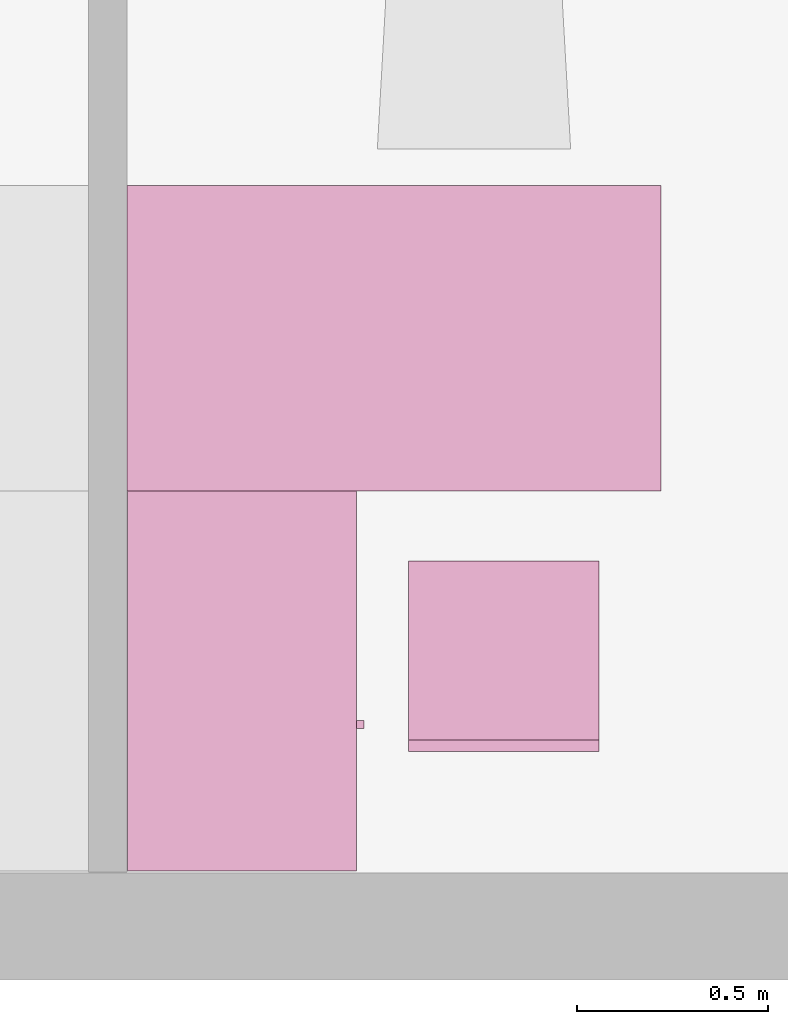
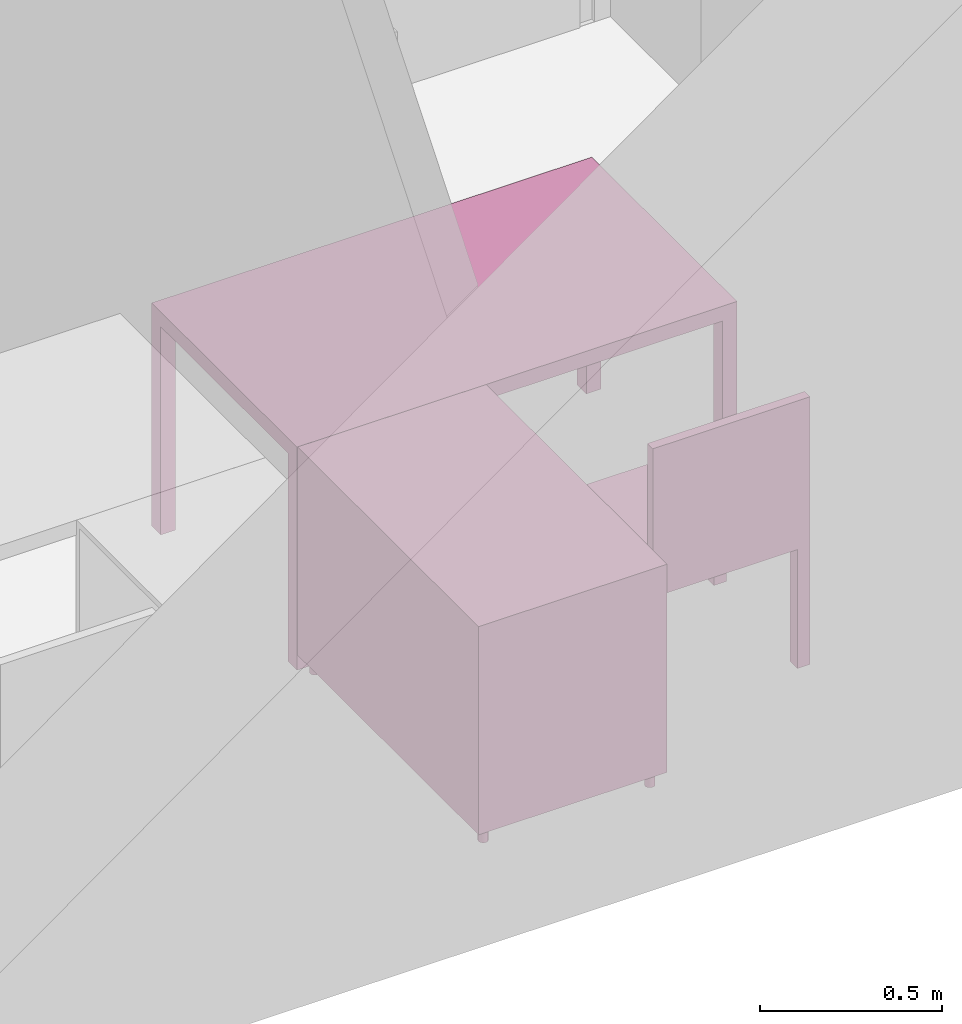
"""IFC4 building model written with IfcOpenShell, lengths in metres."""

from ifc_helpers import new_model, entity, si_unit, converted_unit, derived_unit, frame, origin, place, context, subcontext, project, spatial, faceted_brep, element, save


model = new_model("IFC4")

# Units and contexts
model_context = context("Model", 3, precision=1e-05, world=origin())
body_context = subcontext(model_context, "Body", "Model", "MODEL_VIEW")
ifc_project = project(units=[si_unit("LENGTHUNIT", "METRE"), si_unit("AREAUNIT", "SQUARE_METRE"), si_unit("VOLUMEUNIT", "CUBIC_METRE"), si_unit("MASSUNIT", "GRAM", prefix="KILO"), converted_unit("PLANEANGLEUNIT", "DEGREE", entity("IfcPlaneAngleMeasure", 0.0174532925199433), si_unit("PLANEANGLEUNIT", "RADIAN"), dimensions=[0, 0, 0, 0, 0, 0, 0]), derived_unit("THERMALTRANSMITTANCEUNIT", [(si_unit("POWERUNIT", "WATT"), 1), (si_unit("THERMODYNAMICTEMPERATUREUNIT", "KELVIN"), -1), (si_unit("LENGTHUNIT", "METRE"), -2)]), derived_unit("VOLUMETRICFLOWRATEUNIT", [(si_unit("LENGTHUNIT", "METRE"), 3), (converted_unit("TIMEUNIT", "hour", entity("IfcTimeMeasure", 3600.0), si_unit("TIMEUNIT", "SECOND"), dimensions=[0, 0, 1, 0, 0, 0, 0]), -1), (si_unit("LENGTHUNIT", "METRE"), -1)])], contexts=[model_context])

# Building, storeys
building_placement = place(None, origin())
building = spatial("IfcBuilding", under=ifc_project, at=building_placement, Name="HABITATGE PLURIFAMILIAR", CompositionType="ELEMENT")
storey_1_placement = place(building_placement, frame((0.0, 0.0, 6.25)))
storey_1 = spatial("IfcBuildingStorey", under=building, at=storey_1_placement, Name="PLANTA PRIMERA", CompositionType="ELEMENT", Elevation=6.25)
storey_2_placement = place(storey_1_placement, frame((0.0, 0.0, 3.35)))
storey_2 = spatial("IfcBuildingStorey", under=storey_1, at=storey_2_placement, Name="NOU", CompositionType="PARTIAL")

# Furniture
furniture_1_placement = place(storey_2_placement, frame((403.46963549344, 14.1227210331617, -3.35)))
element("IfcFurniture", 1, at=furniture_1_placement, inside=storey_2, Name="Taula 140X80_P1", context=body_context, shape_type="Brep", body=[
    faceted_brep([(1.40000000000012, 0.05, 0.0), (1.35357142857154, 0.05, 0.0), (1.35357142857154, 0.0, 0.0), (1.40000000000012, 0.0, 0.0), (1.40000000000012, 0.0, 0.7), (1.35357142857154, 0.0, 0.7), (1.35357142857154, 0.05, 0.7), (1.40000000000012, 0.05, 0.7)], [[[0, 1, 2, 3]], [[4, 5, 6, 7]], [[3, 4, 7, 0]], [[2, 5, 4, 3]], [[1, 6, 5, 2]], [[0, 7, 6, 1]]], orient=[[False], [False], [False], [False], [False], [False]]),
    faceted_brep([(1.40000000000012, 0.800069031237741, 0.0), (1.35357142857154, 0.800069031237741, 0.0), (1.35357142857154, 0.750069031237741, 0.0), (1.40000000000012, 0.750069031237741, 0.0), (1.40000000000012, 0.750069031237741, 0.7), (1.35357142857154, 0.750069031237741, 0.7), (1.35357142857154, 0.800069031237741, 0.7), (1.40000000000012, 0.800069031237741, 0.7)], [[[0, 1, 2, 3]], [[4, 5, 6, 7]], [[3, 4, 7, 0]], [[2, 5, 4, 3]], [[1, 6, 5, 2]], [[0, 7, 6, 1]]], orient=[[False], [False], [False], [False], [False], [False]]),
    faceted_brep([(1.40000000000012, 0.800069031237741, 0.7), (0.0, 0.800069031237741, 0.7), (0.0, 0.0, 0.7), (1.40000000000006, 0.0, 0.7), (1.40000000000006, 0.0, 0.75), (0.0, 0.0, 0.75), (0.0, 0.800069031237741, 0.75), (1.40000000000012, 0.800069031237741, 0.75)], [[[0, 1, 2, 3]], [[4, 5, 6, 7]], [[3, 4, 7, 0]], [[2, 5, 4, 3]], [[1, 6, 5, 2]], [[0, 7, 6, 1]]], orient=[[False], [False], [False], [False], [False], [False]]),
    faceted_brep([(0.046428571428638, 0.05, 0.0), (0.0, 0.05, 0.0), (0.0, 0.0, 0.0), (0.046428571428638, 0.0, 0.0), (0.046428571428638, 0.0, 0.7), (0.0, 0.0, 0.7), (0.0, 0.05, 0.7), (0.046428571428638, 0.05, 0.7)], [[[0, 1, 2, 3]], [[4, 5, 6, 7]], [[3, 4, 7, 0]], [[2, 5, 4, 3]], [[1, 6, 5, 2]], [[0, 7, 6, 1]]], orient=[[False], [False], [False], [False], [False], [False]]),
    faceted_brep([(0.046428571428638, 0.800069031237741, 0.0), (0.0, 0.800069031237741, 0.0), (0.0, 0.750069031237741, 0.0), (0.046428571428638, 0.750069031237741, 0.0), (0.046428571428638, 0.750069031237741, 0.7), (0.0, 0.750069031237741, 0.7), (0.0, 0.800069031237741, 0.7), (0.046428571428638, 0.800069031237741, 0.7)], [[[0, 1, 2, 3]], [[4, 5, 6, 7]], [[3, 4, 7, 0]], [[2, 5, 4, 3]], [[1, 6, 5, 2]], [[0, 7, 6, 1]]], orient=[[False], [False], [False], [False], [False], [False]]),
])
furniture_2_placement = place(storey_2_placement, frame((403.471767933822, 13.1257751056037, -3.35)))
element("IfcFurniture", 2, at=furniture_2_placement, inside=storey_2, Name="Taula 100X60_P1", context=body_context, shape_type="Brep", body=[
    faceted_brep([(0.0, 1.00000000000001, 0.05), (0.6, 1.00000000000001, 0.05), (0.6, 1.00000000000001, 0.07), (0.0, 1.00000000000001, 0.07), (0.6, 0.0, 0.05), (0.6, 0.0, 0.07), (0.0, 0.0, 0.05), (0.0, 0.0, 0.07)], [[[0, 1, 2, 3]], [[1, 4, 5, 2]], [[4, 6, 7, 5]], [[6, 0, 3, 7]], [[0, 6, 4, 1]], [[3, 2, 5, 7]]], orient=[[False], [False], [False], [False], [False], [False]]),
    faceted_brep([(0.58, 1.00000000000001, 0.35), (0.0, 1.00000000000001, 0.35), (0.0, 0.0, 0.35), (0.58, 0.0, 0.35), (0.0, 1.00000000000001, 0.37), (0.58, 1.00000000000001, 0.37), (0.58, 0.0, 0.37), (0.0, 0.0, 0.37)], [[[0, 1, 2, 3]], [[4, 5, 6, 7]], [[1, 0, 5, 4]], [[2, 1, 4, 7]], [[3, 2, 7, 6]], [[0, 3, 6, 5]]], orient=[[False], [False], [False], [False], [False], [False]]),
    faceted_brep([(0.58, 0.490000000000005, 0.75), (0.58, 0.490000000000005, 0.05), (0.6, 0.490000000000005, 0.05), (0.6, 0.490000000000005, 0.75), (0.58, 0.0, 0.05), (0.6, 0.0, 0.05), (0.58, 0.0, 0.75), (0.6, 0.0, 0.75)], [[[0, 1, 2, 3]], [[1, 4, 5, 2]], [[4, 6, 7, 5]], [[6, 0, 3, 7]], [[0, 6, 4, 1]], [[3, 2, 5, 7]]], orient=[[False], [False], [False], [False], [False], [False]]),
    faceted_brep([(0.0, 0.980000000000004, 0.75), (0.0, 0.980000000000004, 0.0499999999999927), (0.0, 1.0, 0.0499999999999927), (0.0, 1.0, 0.75), (0.6, 0.980000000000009, 0.05), (0.6, 1.00000000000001, 0.05), (0.6, 0.980000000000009, 0.75), (0.6, 1.00000000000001, 0.75)], [[[0, 1, 2, 3]], [[1, 4, 5, 2]], [[4, 6, 7, 5]], [[6, 0, 3, 7]], [[0, 6, 4, 1]], [[3, 2, 5, 7]]], orient=[[False], [False], [False], [False], [False], [False]]),
    faceted_brep([(0.0, 0.470000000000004, 0.75), (0.0, 0.470000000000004, 0.0499999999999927), (0.0, 0.490000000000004, 0.0499999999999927), (0.0, 0.490000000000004, 0.75), (0.6, 0.470000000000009, 0.05), (0.6, 0.490000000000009, 0.05), (0.6, 0.470000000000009, 0.75), (0.6, 0.490000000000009, 0.75)], [[[0, 1, 2, 3]], [[1, 4, 5, 2]], [[4, 6, 7, 5]], [[6, 0, 3, 7]], [[0, 6, 4, 1]], [[3, 2, 5, 7]]], orient=[[False], [False], [False], [False], [False], [False]]),
    faceted_brep([(0.0, 0.47, 0.75000000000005), (0.0, 0.47, 0.0499999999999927), (0.0, 0.490000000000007, 0.0499999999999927), (0.0, 0.490000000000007, 0.75000000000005), (0.579999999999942, 0.469999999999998, 0.0499999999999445), (0.579999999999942, 0.490000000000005, 0.0499999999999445), (0.58, 0.469999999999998, 0.750000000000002), (0.58, 0.490000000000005, 0.750000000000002)], [[[0, 1, 2, 3]], [[1, 4, 5, 2]], [[4, 6, 7, 5]], [[6, 0, 3, 7]], [[0, 6, 4, 1]], [[3, 2, 5, 7]]], orient=[[False], [False], [False], [False], [False], [False]]),
    faceted_brep([(0.0, 0.0, 0.75), (0.0, 0.0, 0.0499999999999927), (0.0, 0.0200000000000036, 0.0499999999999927), (0.0, 0.0200000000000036, 0.75), (0.6, 0.0, 0.05), (0.6, 0.0200000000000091, 0.05), (0.6, 0.0, 0.75), (0.6, 0.0200000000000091, 0.75)], [[[0, 1, 2, 3]], [[1, 4, 5, 2]], [[4, 6, 7, 5]], [[6, 0, 3, 7]], [[0, 6, 4, 1]], [[3, 2, 5, 7]]], orient=[[False], [False], [False], [False], [False], [False]]),
    faceted_brep([(0.0, 1.00000000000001, 0.73), (0.6, 1.00000000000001, 0.73), (0.6, 1.00000000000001, 0.75), (0.0, 1.00000000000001, 0.75), (0.6, 0.0, 0.73), (0.6, 0.0, 0.75), (0.0, 0.0, 0.73), (0.0, 0.0, 0.75)], [[[0, 1, 2, 3]], [[1, 4, 5, 2]], [[4, 6, 7, 5]], [[6, 0, 3, 7]], [[0, 6, 4, 1]], [[3, 2, 5, 7]]], orient=[[False], [False], [False], [False], [False], [False]]),
    faceted_brep([(0.0, 0.980000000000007, 0.75), (0.0, 0.980000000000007, 0.05), (0.02, 0.980000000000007, 0.05), (0.02, 0.980000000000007, 0.75), (0.0, 0.0, 0.05), (0.02, 0.0, 0.05), (0.0, 0.0, 0.75), (0.02, 0.0, 0.75)], [[[0, 1, 2, 3]], [[1, 4, 5, 2]], [[4, 6, 7, 5]], [[6, 0, 3, 7]], [[0, 6, 4, 1]], [[3, 2, 5, 7]]], orient=[[False], [False], [False], [False], [False], [False]]),
    faceted_brep([(0.6, 0.374420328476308, 0.35), (0.62, 0.374420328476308, 0.35), (0.62, 0.394420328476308, 0.35), (0.6, 0.394420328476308, 0.35), (0.6, 0.394420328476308, 0.45), (0.62, 0.394420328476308, 0.45), (0.62, 0.374420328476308, 0.45), (0.6, 0.374420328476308, 0.45)], [[[0, 1, 2, 3]], [[4, 5, 6, 7]], [[3, 4, 7, 0]], [[2, 5, 4, 3]], [[1, 6, 5, 2]], [[0, 7, 6, 1]]], orient=[[False], [False], [False], [False], [False], [False]]),
    faceted_brep([(0.0361788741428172, 0.950063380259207, 0.0), (0.038772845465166, 0.950290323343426, 0.0), (0.0412880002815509, 0.950964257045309, 0.0), (0.0436479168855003, 0.95206470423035, 0.0), (0.0457808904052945, 0.953558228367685, 0.0), (0.0476221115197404, 0.955399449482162, 0.0), (0.0491156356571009, 0.957532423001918, 0.0), (0.0502160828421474, 0.959892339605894, 0.0), (0.0508900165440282, 0.962407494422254, 0.0), (0.0511169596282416, 0.96500146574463, 0.0), (0.0508900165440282, 0.967595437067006, 0.0), (0.0502160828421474, 0.970110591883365, 0.0), (0.0491156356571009, 0.972470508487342, 0.0), (0.0476221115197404, 0.974603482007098, 0.0), (0.0457808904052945, 0.976444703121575, 0.0), (0.0436479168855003, 0.97793822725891, 0.0), (0.0412880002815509, 0.979038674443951, 0.0), (0.038772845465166, 0.979712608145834, 0.0), (0.0361788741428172, 0.979939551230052, 0.0), (0.0335849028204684, 0.979712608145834, 0.0), (0.0310697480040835, 0.979038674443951, 0.0), (0.0287098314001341, 0.97793822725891, 0.0), (0.02657685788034, 0.976444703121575, 0.0), (0.024735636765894, 0.974603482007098, 0.0), (0.0232421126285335, 0.972470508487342, 0.0), (0.022141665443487, 0.970110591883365, 0.0), (0.0214677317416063, 0.967595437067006, 0.0), (0.0212407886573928, 0.96500146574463, 0.0), (0.0214677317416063, 0.962407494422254, 0.0), (0.022141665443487, 0.959892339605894, 0.0), (0.0232421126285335, 0.957532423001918, 0.0), (0.024735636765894, 0.955399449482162, 0.0), (0.02657685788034, 0.953558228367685, 0.0), (0.0287098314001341, 0.95206470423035, 0.0), (0.0310697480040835, 0.950964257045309, 0.0), (0.0335849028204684, 0.950290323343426, 0.0), (0.0361788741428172, 0.950063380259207, 0.05), (0.0335849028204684, 0.950290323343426, 0.05), (0.0310697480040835, 0.950964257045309, 0.05), (0.0287098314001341, 0.95206470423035, 0.05), (0.02657685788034, 0.953558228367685, 0.05), (0.024735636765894, 0.955399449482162, 0.05), (0.0232421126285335, 0.957532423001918, 0.05), (0.022141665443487, 0.959892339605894, 0.05), (0.0214677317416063, 0.962407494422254, 0.05), (0.0212407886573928, 0.96500146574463, 0.05), (0.0214677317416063, 0.967595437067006, 0.05), (0.022141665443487, 0.970110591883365, 0.05), (0.0232421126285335, 0.972470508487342, 0.05), (0.024735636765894, 0.974603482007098, 0.05), (0.02657685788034, 0.976444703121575, 0.05), (0.0287098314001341, 0.97793822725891, 0.05), (0.0310697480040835, 0.979038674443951, 0.05), (0.0335849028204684, 0.979712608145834, 0.05), (0.0361788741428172, 0.979939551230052, 0.05), (0.038772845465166, 0.979712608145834, 0.05), (0.0412880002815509, 0.979038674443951, 0.05), (0.0436479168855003, 0.97793822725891, 0.05), (0.0457808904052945, 0.976444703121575, 0.05), (0.0476221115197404, 0.974603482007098, 0.05), (0.0491156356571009, 0.972470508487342, 0.05), (0.0502160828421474, 0.970110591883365, 0.05), (0.0508900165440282, 0.967595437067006, 0.05), (0.0511169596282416, 0.96500146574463, 0.05), (0.0508900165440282, 0.962407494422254, 0.05), (0.0502160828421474, 0.959892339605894, 0.05), (0.0491156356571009, 0.957532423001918, 0.05), (0.0476221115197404, 0.955399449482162, 0.05), (0.0457808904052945, 0.953558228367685, 0.05), (0.0436479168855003, 0.95206470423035, 0.05), (0.0412880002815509, 0.950964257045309, 0.05), (0.038772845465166, 0.950290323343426, 0.05)], [[[0, 1, 2, 3, 4, 5, 6, 7, 8, 9, 10, 11, 12, 13, 14, 15, 16, 17, 18, 19, 20, 21, 22, 23, 24, 25, 26, 27, 28, 29, 30, 31, 32, 33, 34, 35]], [[36, 37, 38, 39, 40, 41, 42, 43, 44, 45, 46, 47, 48, 49, 50, 51, 52, 53, 54, 55, 56, 57, 58, 59, 60, 61, 62, 63, 64, 65, 66, 67, 68, 69, 70, 71]], [[1, 0, 36, 71]], [[2, 1, 71, 70]], [[3, 2, 70, 69]], [[4, 3, 69, 68]], [[5, 4, 68, 67]], [[6, 5, 67, 66]], [[7, 6, 66, 65]], [[8, 7, 65, 64]], [[9, 8, 64, 63]], [[10, 9, 63, 62]], [[11, 10, 62, 61]], [[12, 11, 61, 60]], [[13, 12, 60, 59]], [[14, 13, 59, 58]], [[15, 14, 58, 57]], [[16, 15, 57, 56]], [[17, 16, 56, 55]], [[18, 17, 55, 54]], [[19, 18, 54, 53]], [[20, 19, 53, 52]], [[21, 20, 52, 51]], [[22, 21, 51, 50]], [[23, 22, 50, 49]], [[24, 23, 49, 48]], [[25, 24, 48, 47]], [[26, 25, 47, 46]], [[27, 26, 46, 45]], [[28, 27, 45, 44]], [[29, 28, 44, 43]], [[30, 29, 43, 42]], [[31, 30, 42, 41]], [[32, 31, 41, 40]], [[33, 32, 40, 39]], [[34, 33, 39, 38]], [[35, 34, 38, 37]], [[0, 35, 37, 36]]], orient=[[False], [False], [False], [False], [False], [False], [False], [False], [False], [False], [False], [False], [False], [False], [False], [False], [False], [False], [False], [False], [False], [False], [False], [False], [False], [False], [False], [False], [False], [False], [False], [False], [False], [False], [False], [False], [False], [False]]),
    faceted_brep([(0.566178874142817, 0.950063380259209, 0.0), (0.568772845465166, 0.950290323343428, 0.0), (0.571288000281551, 0.950964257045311, 0.0), (0.5736479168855, 0.952064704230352, 0.0), (0.575780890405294, 0.953558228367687, 0.0), (0.57762211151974, 0.955399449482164, 0.0), (0.579115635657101, 0.95753242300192, 0.0), (0.580216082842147, 0.959892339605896, 0.0), (0.580890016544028, 0.962407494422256, 0.0), (0.581116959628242, 0.965001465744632, 0.0), (0.580890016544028, 0.967595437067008, 0.0), (0.580216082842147, 0.970110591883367, 0.0), (0.579115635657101, 0.972470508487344, 0.0), (0.57762211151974, 0.9746034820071, 0.0), (0.575780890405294, 0.976444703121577, 0.0), (0.5736479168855, 0.977938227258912, 0.0), (0.571288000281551, 0.979038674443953, 0.0), (0.568772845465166, 0.979712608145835, 0.0), (0.566178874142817, 0.979939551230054, 0.0), (0.563584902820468, 0.979712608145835, 0.0), (0.561069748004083, 0.979038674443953, 0.0), (0.558709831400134, 0.977938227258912, 0.0), (0.55657685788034, 0.976444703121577, 0.0), (0.554735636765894, 0.9746034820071, 0.0), (0.553242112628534, 0.972470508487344, 0.0), (0.552141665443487, 0.970110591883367, 0.0), (0.551467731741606, 0.967595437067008, 0.0), (0.551240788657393, 0.965001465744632, 0.0), (0.551467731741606, 0.962407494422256, 0.0), (0.552141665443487, 0.959892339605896, 0.0), (0.553242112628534, 0.95753242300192, 0.0), (0.554735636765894, 0.955399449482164, 0.0), (0.55657685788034, 0.953558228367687, 0.0), (0.558709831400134, 0.952064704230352, 0.0), (0.561069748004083, 0.950964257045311, 0.0), (0.563584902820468, 0.950290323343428, 0.0), (0.566178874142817, 0.950063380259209, 0.05), (0.563584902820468, 0.950290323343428, 0.05), (0.561069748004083, 0.950964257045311, 0.05), (0.558709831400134, 0.952064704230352, 0.05), (0.55657685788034, 0.953558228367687, 0.05), (0.554735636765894, 0.955399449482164, 0.05), (0.553242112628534, 0.95753242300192, 0.05), (0.552141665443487, 0.959892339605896, 0.05), (0.551467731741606, 0.962407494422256, 0.05), (0.551240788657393, 0.965001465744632, 0.05), (0.551467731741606, 0.967595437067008, 0.05), (0.552141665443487, 0.970110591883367, 0.05), (0.553242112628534, 0.972470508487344, 0.05), (0.554735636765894, 0.9746034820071, 0.05), (0.55657685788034, 0.976444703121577, 0.05), (0.558709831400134, 0.977938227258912, 0.05), (0.561069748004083, 0.979038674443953, 0.05), (0.563584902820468, 0.979712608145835, 0.05), (0.566178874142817, 0.979939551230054, 0.05), (0.568772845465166, 0.979712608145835, 0.05), (0.571288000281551, 0.979038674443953, 0.05), (0.5736479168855, 0.977938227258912, 0.05), (0.575780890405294, 0.976444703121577, 0.05), (0.57762211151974, 0.9746034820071, 0.05), (0.579115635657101, 0.972470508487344, 0.05), (0.580216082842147, 0.970110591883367, 0.05), (0.580890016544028, 0.967595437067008, 0.05), (0.581116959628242, 0.965001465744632, 0.05), (0.580890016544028, 0.962407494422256, 0.05), (0.580216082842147, 0.959892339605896, 0.05), (0.579115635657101, 0.95753242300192, 0.05), (0.57762211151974, 0.955399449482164, 0.05), (0.575780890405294, 0.953558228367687, 0.05), (0.5736479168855, 0.952064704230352, 0.05), (0.571288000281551, 0.950964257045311, 0.05), (0.568772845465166, 0.950290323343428, 0.05)], [[[0, 1, 2, 3, 4, 5, 6, 7, 8, 9, 10, 11, 12, 13, 14, 15, 16, 17, 18, 19, 20, 21, 22, 23, 24, 25, 26, 27, 28, 29, 30, 31, 32, 33, 34, 35]], [[36, 37, 38, 39, 40, 41, 42, 43, 44, 45, 46, 47, 48, 49, 50, 51, 52, 53, 54, 55, 56, 57, 58, 59, 60, 61, 62, 63, 64, 65, 66, 67, 68, 69, 70, 71]], [[1, 0, 36, 71]], [[2, 1, 71, 70]], [[3, 2, 70, 69]], [[4, 3, 69, 68]], [[5, 4, 68, 67]], [[6, 5, 67, 66]], [[7, 6, 66, 65]], [[8, 7, 65, 64]], [[9, 8, 64, 63]], [[10, 9, 63, 62]], [[11, 10, 62, 61]], [[12, 11, 61, 60]], [[13, 12, 60, 59]], [[14, 13, 59, 58]], [[15, 14, 58, 57]], [[16, 15, 57, 56]], [[17, 16, 56, 55]], [[18, 17, 55, 54]], [[19, 18, 54, 53]], [[20, 19, 53, 52]], [[21, 20, 52, 51]], [[22, 21, 51, 50]], [[23, 22, 50, 49]], [[24, 23, 49, 48]], [[25, 24, 48, 47]], [[26, 25, 47, 46]], [[27, 26, 46, 45]], [[28, 27, 45, 44]], [[29, 28, 44, 43]], [[30, 29, 43, 42]], [[31, 30, 42, 41]], [[32, 31, 41, 40]], [[33, 32, 40, 39]], [[34, 33, 39, 38]], [[35, 34, 38, 37]], [[0, 35, 37, 36]]], orient=[[False], [False], [False], [False], [False], [False], [False], [False], [False], [False], [False], [False], [False], [False], [False], [False], [False], [False], [False], [False], [False], [False], [False], [False], [False], [False], [False], [False], [False], [False], [False], [False], [False], [False], [False], [False], [False], [False]]),
    faceted_brep([(0.564999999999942, 0.0200170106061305, 0.0), (0.567593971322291, 0.0202439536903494, 0.0), (0.570109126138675, 0.0209178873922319, 0.0), (0.572469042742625, 0.022018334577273, 0.0), (0.574602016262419, 0.023511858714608, 0.0), (0.576443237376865, 0.0253530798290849, 0.0), (0.577936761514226, 0.0274860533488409, 0.0), (0.579037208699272, 0.0298459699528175, 0.0), (0.579711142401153, 0.032361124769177, 0.0), (0.579938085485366, 0.0349550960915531, 0.0), (0.579711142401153, 0.0375490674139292, 0.0), (0.579037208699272, 0.0400642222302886, 0.0), (0.577936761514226, 0.0424241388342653, 0.0), (0.576443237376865, 0.0445571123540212, 0.0), (0.574602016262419, 0.0463983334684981, 0.0), (0.572469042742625, 0.0478918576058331, 0.0), (0.570109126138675, 0.0489923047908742, 0.0), (0.567593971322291, 0.0496662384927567, 0.0), (0.564999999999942, 0.0498931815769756, 0.0), (0.562406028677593, 0.0496662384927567, 0.0), (0.559890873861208, 0.0489923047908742, 0.0), (0.557530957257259, 0.0478918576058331, 0.0), (0.555397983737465, 0.0463983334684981, 0.0), (0.553556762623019, 0.0445571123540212, 0.0), (0.552063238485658, 0.0424241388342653, 0.0), (0.550962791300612, 0.0400642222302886, 0.0), (0.550288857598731, 0.0375490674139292, 0.0), (0.550061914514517, 0.0349550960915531, 0.0), (0.550288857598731, 0.032361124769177, 0.0), (0.550962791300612, 0.0298459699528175, 0.0), (0.552063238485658, 0.0274860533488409, 0.0), (0.553556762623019, 0.0253530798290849, 0.0), (0.555397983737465, 0.023511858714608, 0.0), (0.557530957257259, 0.022018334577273, 0.0), (0.559890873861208, 0.0209178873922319, 0.0), (0.562406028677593, 0.0202439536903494, 0.0), (0.564999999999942, 0.0200170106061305, 0.05), (0.562406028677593, 0.0202439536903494, 0.05), (0.559890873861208, 0.0209178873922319, 0.05), (0.557530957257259, 0.022018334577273, 0.05), (0.555397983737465, 0.023511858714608, 0.05), (0.553556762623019, 0.0253530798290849, 0.05), (0.552063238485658, 0.0274860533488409, 0.05), (0.550962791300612, 0.0298459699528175, 0.05), (0.550288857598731, 0.032361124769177, 0.05), (0.550061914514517, 0.0349550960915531, 0.05), (0.550288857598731, 0.0375490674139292, 0.05), (0.550962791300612, 0.0400642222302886, 0.05), (0.552063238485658, 0.0424241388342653, 0.05), (0.553556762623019, 0.0445571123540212, 0.05), (0.555397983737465, 0.0463983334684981, 0.05), (0.557530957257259, 0.0478918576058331, 0.05), (0.559890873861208, 0.0489923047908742, 0.05), (0.562406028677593, 0.0496662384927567, 0.05), (0.564999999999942, 0.0498931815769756, 0.05), (0.567593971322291, 0.0496662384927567, 0.05), (0.570109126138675, 0.0489923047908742, 0.05), (0.572469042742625, 0.0478918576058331, 0.05), (0.574602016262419, 0.0463983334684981, 0.05), (0.576443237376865, 0.0445571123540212, 0.05), (0.577936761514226, 0.0424241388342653, 0.05), (0.579037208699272, 0.0400642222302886, 0.05), (0.579711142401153, 0.0375490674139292, 0.05), (0.579938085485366, 0.0349550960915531, 0.05), (0.579711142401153, 0.032361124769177, 0.05), (0.579037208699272, 0.0298459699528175, 0.05), (0.577936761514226, 0.0274860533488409, 0.05), (0.576443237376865, 0.0253530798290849, 0.05), (0.574602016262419, 0.023511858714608, 0.05), (0.572469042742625, 0.022018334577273, 0.05), (0.570109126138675, 0.0209178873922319, 0.05), (0.567593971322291, 0.0202439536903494, 0.05)], [[[0, 1, 2, 3, 4, 5, 6, 7, 8, 9, 10, 11, 12, 13, 14, 15, 16, 17, 18, 19, 20, 21, 22, 23, 24, 25, 26, 27, 28, 29, 30, 31, 32, 33, 34, 35]], [[36, 37, 38, 39, 40, 41, 42, 43, 44, 45, 46, 47, 48, 49, 50, 51, 52, 53, 54, 55, 56, 57, 58, 59, 60, 61, 62, 63, 64, 65, 66, 67, 68, 69, 70, 71]], [[1, 0, 36, 71]], [[2, 1, 71, 70]], [[3, 2, 70, 69]], [[4, 3, 69, 68]], [[5, 4, 68, 67]], [[6, 5, 67, 66]], [[7, 6, 66, 65]], [[8, 7, 65, 64]], [[9, 8, 64, 63]], [[10, 9, 63, 62]], [[11, 10, 62, 61]], [[12, 11, 61, 60]], [[13, 12, 60, 59]], [[14, 13, 59, 58]], [[15, 14, 58, 57]], [[16, 15, 57, 56]], [[17, 16, 56, 55]], [[18, 17, 55, 54]], [[19, 18, 54, 53]], [[20, 19, 53, 52]], [[21, 20, 52, 51]], [[22, 21, 51, 50]], [[23, 22, 50, 49]], [[24, 23, 49, 48]], [[25, 24, 48, 47]], [[26, 25, 47, 46]], [[27, 26, 46, 45]], [[28, 27, 45, 44]], [[29, 28, 44, 43]], [[30, 29, 43, 42]], [[31, 30, 42, 41]], [[32, 31, 41, 40]], [[33, 32, 40, 39]], [[34, 33, 39, 38]], [[35, 34, 38, 37]], [[0, 35, 37, 36]]], orient=[[False], [False], [False], [False], [False], [False], [False], [False], [False], [False], [False], [False], [False], [False], [False], [False], [False], [False], [False], [False], [False], [False], [False], [False], [False], [False], [False], [False], [False], [False], [False], [False], [False], [False], [False], [False], [False], [False]]),
    faceted_brep([(0.0349662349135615, 0.0203520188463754, 0.0), (0.0375602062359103, 0.0205789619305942, 0.0), (0.0400753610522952, 0.0212528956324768, 0.0), (0.0424352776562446, 0.0223533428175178, 0.0), (0.0445682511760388, 0.0238468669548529, 0.0), (0.0464094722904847, 0.0256880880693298, 0.0), (0.0479029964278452, 0.0278210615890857, 0.0), (0.0490034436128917, 0.0301809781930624, 0.0), (0.0496773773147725, 0.0326961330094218, 0.0), (0.0499043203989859, 0.0352901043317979, 0.0), (0.0496773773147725, 0.037884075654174, 0.0), (0.0490034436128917, 0.0403992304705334, 0.0), (0.0479029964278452, 0.0427591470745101, 0.0), (0.0464094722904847, 0.0448921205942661, 0.0), (0.0445682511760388, 0.046733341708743, 0.0), (0.0424352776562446, 0.048226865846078, 0.0), (0.0400753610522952, 0.049327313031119, 0.0), (0.0375602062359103, 0.0500012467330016, 0.0), (0.0349662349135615, 0.0502281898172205, 0.0), (0.0323722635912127, 0.0500012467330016, 0.0), (0.0298571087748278, 0.049327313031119, 0.0), (0.0274971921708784, 0.048226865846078, 0.0), (0.0253642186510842, 0.046733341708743, 0.0), (0.0235229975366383, 0.0448921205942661, 0.0), (0.0220294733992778, 0.0427591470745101, 0.0), (0.0209290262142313, 0.0403992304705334, 0.0), (0.0202550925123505, 0.037884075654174, 0.0), (0.0200281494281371, 0.0352901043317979, 0.0), (0.0202550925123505, 0.0326961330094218, 0.0), (0.0209290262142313, 0.0301809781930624, 0.0), (0.0220294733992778, 0.0278210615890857, 0.0), (0.0235229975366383, 0.0256880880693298, 0.0), (0.0253642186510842, 0.0238468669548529, 0.0), (0.0274971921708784, 0.0223533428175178, 0.0), (0.0298571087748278, 0.0212528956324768, 0.0), (0.0323722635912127, 0.0205789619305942, 0.0), (0.0349662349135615, 0.0203520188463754, 0.05), (0.0323722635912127, 0.0205789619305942, 0.05), (0.0298571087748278, 0.0212528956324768, 0.05), (0.0274971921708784, 0.0223533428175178, 0.05), (0.0253642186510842, 0.0238468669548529, 0.05), (0.0235229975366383, 0.0256880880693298, 0.05), (0.0220294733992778, 0.0278210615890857, 0.05), (0.0209290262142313, 0.0301809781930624, 0.05), (0.0202550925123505, 0.0326961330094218, 0.05), (0.0200281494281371, 0.0352901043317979, 0.05), (0.0202550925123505, 0.037884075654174, 0.05), (0.0209290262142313, 0.0403992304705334, 0.05), (0.0220294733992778, 0.0427591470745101, 0.05), (0.0235229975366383, 0.0448921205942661, 0.05), (0.0253642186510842, 0.046733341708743, 0.05), (0.0274971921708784, 0.048226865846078, 0.05), (0.0298571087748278, 0.049327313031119, 0.05), (0.0323722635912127, 0.0500012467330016, 0.05), (0.0349662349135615, 0.0502281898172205, 0.05), (0.0375602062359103, 0.0500012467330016, 0.05), (0.0400753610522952, 0.049327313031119, 0.05), (0.0424352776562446, 0.048226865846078, 0.05), (0.0445682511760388, 0.046733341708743, 0.05), (0.0464094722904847, 0.0448921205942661, 0.05), (0.0479029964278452, 0.0427591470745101, 0.05), (0.0490034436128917, 0.0403992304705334, 0.05), (0.0496773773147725, 0.037884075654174, 0.05), (0.0499043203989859, 0.0352901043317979, 0.05), (0.0496773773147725, 0.0326961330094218, 0.05), (0.0490034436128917, 0.0301809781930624, 0.05), (0.0479029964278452, 0.0278210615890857, 0.05), (0.0464094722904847, 0.0256880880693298, 0.05), (0.0445682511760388, 0.0238468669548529, 0.05), (0.0424352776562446, 0.0223533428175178, 0.05), (0.0400753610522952, 0.0212528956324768, 0.05), (0.0375602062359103, 0.0205789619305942, 0.05)], [[[0, 1, 2, 3, 4, 5, 6, 7, 8, 9, 10, 11, 12, 13, 14, 15, 16, 17, 18, 19, 20, 21, 22, 23, 24, 25, 26, 27, 28, 29, 30, 31, 32, 33, 34, 35]], [[36, 37, 38, 39, 40, 41, 42, 43, 44, 45, 46, 47, 48, 49, 50, 51, 52, 53, 54, 55, 56, 57, 58, 59, 60, 61, 62, 63, 64, 65, 66, 67, 68, 69, 70, 71]], [[1, 0, 36, 71]], [[2, 1, 71, 70]], [[3, 2, 70, 69]], [[4, 3, 69, 68]], [[5, 4, 68, 67]], [[6, 5, 67, 66]], [[7, 6, 66, 65]], [[8, 7, 65, 64]], [[9, 8, 64, 63]], [[10, 9, 63, 62]], [[11, 10, 62, 61]], [[12, 11, 61, 60]], [[13, 12, 60, 59]], [[14, 13, 59, 58]], [[15, 14, 58, 57]], [[16, 15, 57, 56]], [[17, 16, 56, 55]], [[18, 17, 55, 54]], [[19, 18, 54, 53]], [[20, 19, 53, 52]], [[21, 20, 52, 51]], [[22, 21, 51, 50]], [[23, 22, 50, 49]], [[24, 23, 49, 48]], [[25, 24, 48, 47]], [[26, 25, 47, 46]], [[27, 26, 46, 45]], [[28, 27, 45, 44]], [[29, 28, 44, 43]], [[30, 29, 43, 42]], [[31, 30, 42, 41]], [[32, 31, 41, 40]], [[33, 32, 40, 39]], [[34, 33, 39, 38]], [[35, 34, 38, 37]], [[0, 35, 37, 36]]], orient=[[False], [False], [False], [False], [False], [False], [False], [False], [False], [False], [False], [False], [False], [False], [False], [False], [False], [False], [False], [False], [False], [False], [False], [False], [False], [False], [False], [False], [False], [False], [False], [False], [False], [False], [False], [False], [False], [False]]),
])
furniture_3_placement = place(storey_2_placement, frame((404.207114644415, 13.4392327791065, -3.34942958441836)))
element("IfcFurniture", 3, at=furniture_3_placement, inside=storey_2, Name="Cadira d'Oficina_P1", context=body_context, shape_type="Brep", body=[
    faceted_brep([(0.5, 0.5, 0.4), (0.0, 0.5, 0.4), (0.0, 0.0, 0.4), (0.5, 0.0, 0.4), (0.5, 0.0, 0.45), (0.0, 0.0, 0.45), (0.0, 0.5, 0.45), (0.5, 0.5, 0.45)], [[[0, 1, 2, 3]], [[4, 5, 6, 7]], [[3, 4, 7, 0]], [[2, 5, 4, 3]], [[1, 6, 5, 2]], [[0, 7, 6, 1]]], orient=[[False], [False], [False], [False], [False], [False]]),
    faceted_brep([(0.0, 0.04, 0.0), (0.0, 0.0, 0.0), (0.04, 0.0, 0.0), (0.04, 0.04, 0.0), (0.04, 0.04, 0.4), (0.04, 0.0, 0.4), (0.0, 0.0, 0.4), (0.0, 0.04, 0.4)], [[[0, 1, 2, 3]], [[4, 5, 6, 7]], [[3, 4, 7, 0]], [[2, 5, 4, 3]], [[1, 6, 5, 2]], [[0, 7, 6, 1]]], orient=[[False], [False], [False], [False], [False], [False]]),
    faceted_brep([(0.0, 0.5, 0.0), (0.0, 0.46, 0.0), (0.04, 0.46, 0.0), (0.04, 0.5, 0.0), (0.04, 0.5, 0.4), (0.04, 0.46, 0.4), (0.0, 0.46, 0.4), (0.0, 0.5, 0.4)], [[[0, 1, 2, 3]], [[4, 5, 6, 7]], [[3, 4, 7, 0]], [[2, 5, 4, 3]], [[1, 6, 5, 2]], [[0, 7, 6, 1]]], orient=[[False], [False], [False], [False], [False], [False]]),
    faceted_brep([(0.46, 0.04, 0.0), (0.46, 0.0, 0.0), (0.5, 0.0, 0.0), (0.5, 0.04, 0.0), (0.5, 0.04, 0.4), (0.5, 0.0, 0.4), (0.46, 0.0, 0.4), (0.46, 0.04, 0.4)], [[[0, 1, 2, 3]], [[4, 5, 6, 7]], [[3, 4, 7, 0]], [[2, 5, 4, 3]], [[1, 6, 5, 2]], [[0, 7, 6, 1]]], orient=[[False], [False], [False], [False], [False], [False]]),
    faceted_brep([(0.46, 0.5, 0.0), (0.46, 0.46, 0.0), (0.5, 0.46, 0.0), (0.5, 0.5, 0.0), (0.5, 0.5, 0.4), (0.5, 0.46, 0.4), (0.46, 0.46, 0.4), (0.46, 0.5, 0.4)], [[[0, 1, 2, 3]], [[4, 5, 6, 7]], [[3, 4, 7, 0]], [[2, 5, 4, 3]], [[1, 6, 5, 2]], [[0, 7, 6, 1]]], orient=[[False], [False], [False], [False], [False], [False]]),
    faceted_brep([(0.0, 0.03, 0.45), (0.0, 0.0, 0.45), (0.5, 0.0, 0.45), (0.5, 0.03, 0.45), (0.5, 0.03, 0.9), (0.5, 0.0, 0.9), (0.0, 0.0, 0.9), (0.0, 0.03, 0.9)], [[[0, 1, 2, 3]], [[4, 5, 6, 7]], [[3, 4, 7, 0]], [[2, 5, 4, 3]], [[1, 6, 5, 2]], [[0, 7, 6, 1]]], orient=[[False], [False], [False], [False], [False], [False]]),
])

save(model, "model.ifc")
